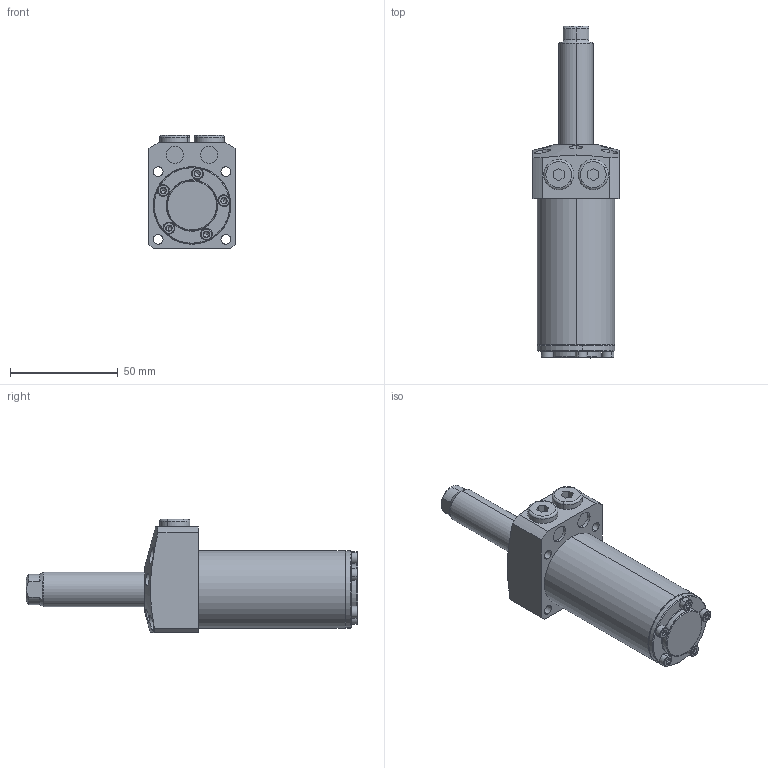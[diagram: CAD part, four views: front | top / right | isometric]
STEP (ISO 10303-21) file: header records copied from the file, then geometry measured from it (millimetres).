
FILE_DESCRIPTION (( 'STEP AP203' ), '1' );
FILE_NAME ('680360-CA-051.step', '2016-11-02T03:16:37', ( 'wxp' ), ( '' ), 'SwSTEP 2.0', 'SolidWorks 2011', '' );
FILE_SCHEMA (( 'CONFIG_CONTROL_DESIGN' ));
Length unit declared in the file: millimetre
Products named in the file (7): 680360-CA-051; 葩璃 68036-15-5^680360-CA-051; 葩璃 68036-51-3^680360-CA-051; 葩璃 68036-15-4^680360-CA-051; 葩璃 68036-15-3^680360-CA-051; 葩璃 68036-51-2^680360-CA-051; 葩璃 68036-51-1^680360-CA-051
Assembly tree (15 placements, depth 2):
  680360-CA-051
    葩璃 68036-15-5^680360-CA-051  x2
    葩璃 68036-15-4^680360-CA-051  x5
    葩璃 68036-51-3^680360-CA-051  x5
    葩璃 68036-51-1^680360-CA-051
    葩璃 68036-15-3^680360-CA-051
    葩璃 68036-51-2^680360-CA-051
Bounding box: 40 x 154 x 52.5 mm (x, y, z)
Volume: 118342.8 mm3; surface area: 30551 mm2
Topology: 15 solids, 15 shells, 482 faces, 916 edges, 486 vertices
Faces by surface type: plane 205, cone 144, cylinder 117, torus 16
Entity records: 7161 total; most frequent: CARTESIAN_POINT 1648, DIRECTION 1046, ORIENTED_EDGE 852, AXIS2_PLACEMENT_3D 438, EDGE_CURVE 426, VERTEX_POINT 254, EDGE_LOOP 250, CIRCLE 212
